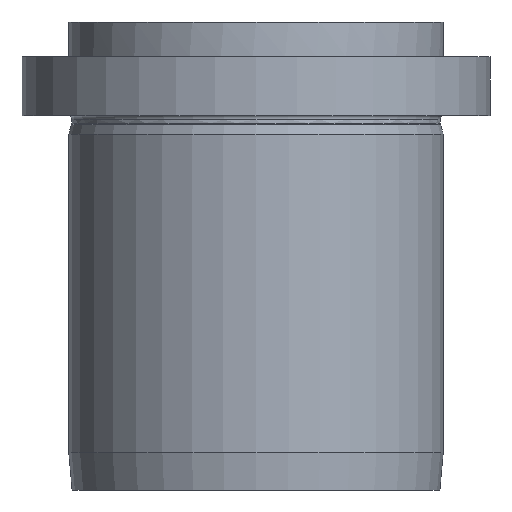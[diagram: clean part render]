
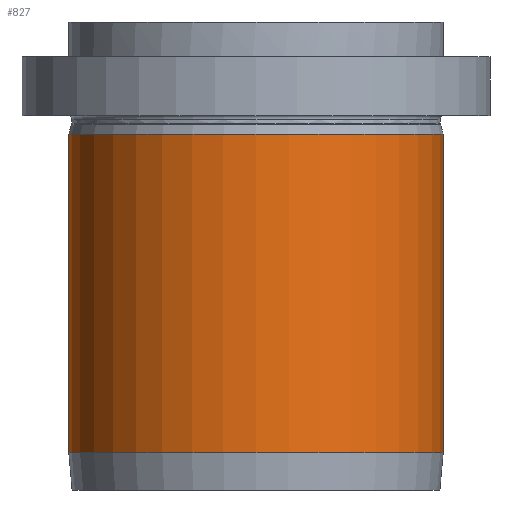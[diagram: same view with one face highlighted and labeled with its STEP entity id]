
A CAD part, left-side view. The second image highlights one B-rep face of the part: STEP entity #827.
In plain terms, the highlighted cylindrical face has radius 20 mm (diameter 40 mm), a partial arc.
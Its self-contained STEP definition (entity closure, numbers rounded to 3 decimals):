
#580=CARTESIAN_POINT('Vertex',(0.,-20.,38.)) ;
#587=CARTESIAN_POINT('Vertex',(0.,20.,38.)) ;
#602=CARTESIAN_POINT('Axis2P3D Location',(0.,0.,38.)) ;
#735=CARTESIAN_POINT('Axis2P3D Location',(0.,0.,4.)) ;
#739=CARTESIAN_POINT('Vertex',(0.,20.,4.)) ;
#741=CARTESIAN_POINT('Vertex',(0.,-20.,4.)) ;
#806=CARTESIAN_POINT('Axis2P3D Location',(0.,0.,21.)) ;
#811=CARTESIAN_POINT('Line Origine',(0.,20.,21.)) ;
#816=CARTESIAN_POINT('Line Origine',(0.,-20.,21.)) ;
#603=DIRECTION('Axis2P3D Direction',(0.,-0.,-1.)) ;
#736=DIRECTION('Axis2P3D Direction',(0.,0.,1.)) ;
#807=DIRECTION('Axis2P3D Direction',(0.,0.,1.)) ;
#808=DIRECTION('Axis2P3D XDirection',(0.,1.,0.)) ;
#812=DIRECTION('Vector Direction',(0.,0.,1.)) ;
#817=DIRECTION('Vector Direction',(0.,0.,1.)) ;
#604=AXIS2_PLACEMENT_3D('Circle Axis2P3D',#602,#603,$) ;
#737=AXIS2_PLACEMENT_3D('Circle Axis2P3D',#735,#736,$) ;
#809=AXIS2_PLACEMENT_3D('Cylinder Axis2P3D',#806,#807,#808) ;
#822=ORIENTED_EDGE('',*,*,#815,.F.) ;
#823=ORIENTED_EDGE('',*,*,#743,.T.) ;
#824=ORIENTED_EDGE('',*,*,#820,.T.) ;
#825=ORIENTED_EDGE('',*,*,#606,.F.) ;
#813=VECTOR('Line Direction',#812,1.) ;
#818=VECTOR('Line Direction',#817,1.) ;
#827=ADVANCED_FACE('PartBody',(#826),#810,.T.) ;
#605=CIRCLE('generated circle',#604,20.) ;
#738=CIRCLE('generated circle',#737,20.) ;
#810=CYLINDRICAL_SURFACE('generated cylinder',#809,20.) ;
#606=EDGE_CURVE('',#588,#581,#605,.F.) ;
#743=EDGE_CURVE('',#740,#742,#738,.T.) ;
#815=EDGE_CURVE('',#740,#588,#814,.T.) ;
#820=EDGE_CURVE('',#742,#581,#819,.T.) ;
#821=EDGE_LOOP('',(#822,#823,#824,#825)) ;
#826=FACE_OUTER_BOUND('',#821,.T.) ;
#814=LINE('Line',#811,#813) ;
#819=LINE('Line',#816,#818) ;
#581=VERTEX_POINT('',#580) ;
#588=VERTEX_POINT('',#587) ;
#740=VERTEX_POINT('',#739) ;
#742=VERTEX_POINT('',#741) ;
